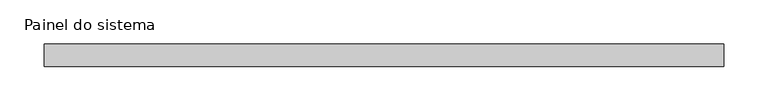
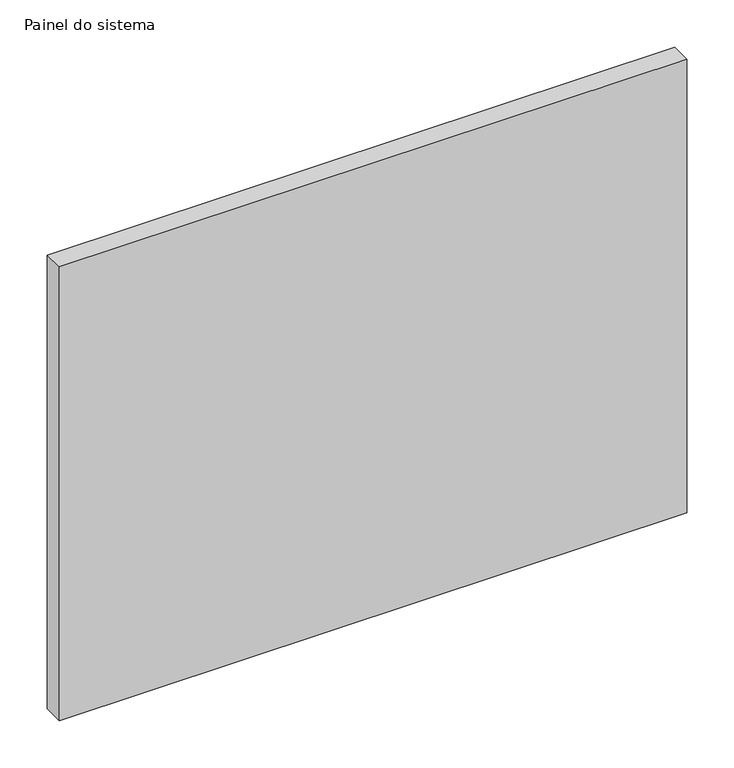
"""IFC4 building model written with IfcOpenShell, lengths in millimetres: plate geometry, Painel do sistema : Envidraçado."""

from ifc_helpers import new_model, si_unit, origin, origin_with_axes, place, context, project, spatial, polyline, outline, extrude, source, transform, mapped, element, save


def painel_do_sistema_908b2a22(model_context):
    return source(origin(), model_context, "Body", "SweptSolid", [
        extrude(outline(polyline([(382.5, 24.5), (-382.5, 24.5), (-382.5, 49.5), (382.5, 49.5), (382.5, 24.5)])), origin_with_axes(), (0.0, 0.0, 1.0), 585.0),
    ])


if __name__ == "__main__":
    model = new_model("IFC4")
    model_context = context("Model", 3, world=origin())
    ifc_project = project(units=[si_unit("LENGTHUNIT", "METRE", prefix="MILLI")], contexts=[model_context])
    site = spatial("IfcSite", under=ifc_project)
    building = spatial("IfcBuilding", under=site)
    placement = place(None, origin())
    painel_do_sistema_shape = painel_do_sistema_908b2a22(model_context)
    element("IfcPlate", 1, ObjectType="Painel do sistema : Envidraçado", at=placement, inside=building, context=model_context, shape_type="MappedRepresentation", body=[
        mapped(painel_do_sistema_shape, transform((0.0, 0.0, 0.0), x_axis=(1.0, 0.0, 0.0), y_axis=(0.0, 1.0, 0.0), z_axis=(0.0, 0.0, 1.0))),
    ])
    save(model, "model.ifc")
